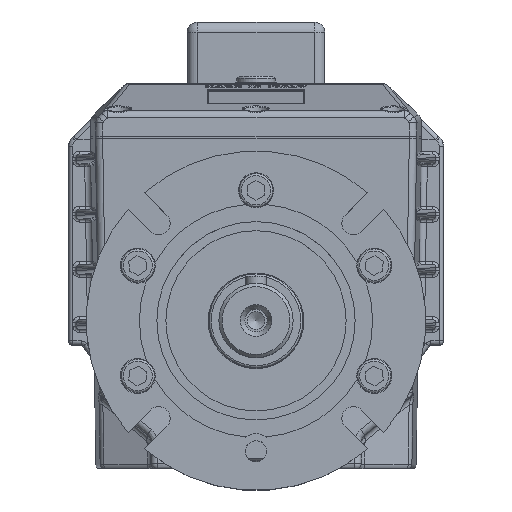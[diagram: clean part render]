
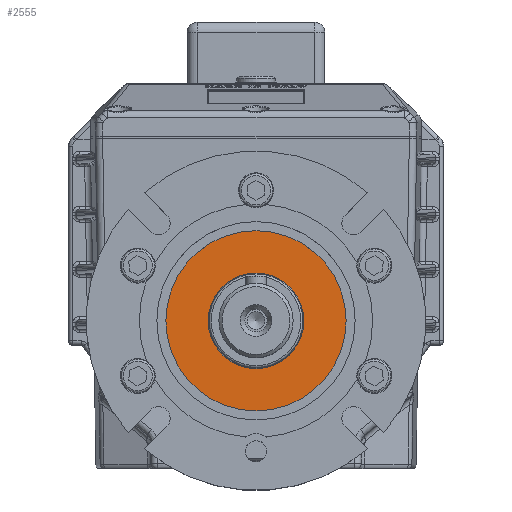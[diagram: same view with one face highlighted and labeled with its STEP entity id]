
A CAD part, top view. The second image highlights one B-rep face of the part: STEP entity #2555.
In plain terms, the highlighted planar face has unit normal (0, 0, 1).
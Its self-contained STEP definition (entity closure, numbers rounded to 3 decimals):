
#2555 = ADVANCED_FACE( '', ( #6329, #6330 ), #6331, .F. );
#6329 = FACE_BOUND( '', #13967, .T. );
#6330 = FACE_OUTER_BOUND( '', #13968, .T. );
#6331 = PLANE( '', #13969 );
#13967 = EDGE_LOOP( '', ( #26810 ) );
#13968 = EDGE_LOOP( '', ( #26811 ) );
#13969 = AXIS2_PLACEMENT_3D( '', #26812, #26813, #26814 );
#26810 = ORIENTED_EDGE( '', *, *, #37309, .T. );
#26811 = ORIENTED_EDGE( '', *, *, #38530, .F. );
#26812 = CARTESIAN_POINT( '', ( 0., 0., 12. ) );
#26813 = DIRECTION( '', ( 0., 0., -1. ) );
#26814 = DIRECTION( '', ( 1., 0., 0. ) );
#37309 = EDGE_CURVE( '', #43419, #43419, #43420, .T. );
#38530 = EDGE_CURVE( '', #45383, #45383, #45384, .T. );
#43419 = VERTEX_POINT( '', #53605 );
#43420 = CIRCLE( '', #53606, 22.5 );
#45383 = VERTEX_POINT( '', #57908 );
#45384 = CIRCLE( '', #57909, 42.5 );
#53605 = CARTESIAN_POINT( '', ( 0., 22.5, 12. ) );
#53606 = AXIS2_PLACEMENT_3D( '', #67266, #67267, #67268 );
#57908 = CARTESIAN_POINT( '', ( 0., 42.5, 12. ) );
#57909 = AXIS2_PLACEMENT_3D( '', #68624, #68625, #68626 );
#67266 = CARTESIAN_POINT( '', ( 0., 0., 12. ) );
#67267 = DIRECTION( '', ( 0., 0., -1. ) );
#67268 = DIRECTION( '', ( 0., 1., 0. ) );
#68624 = CARTESIAN_POINT( '', ( 0., 0., 12. ) );
#68625 = DIRECTION( '', ( 0., 0., -1. ) );
#68626 = DIRECTION( '', ( 0., 1., 0. ) );
